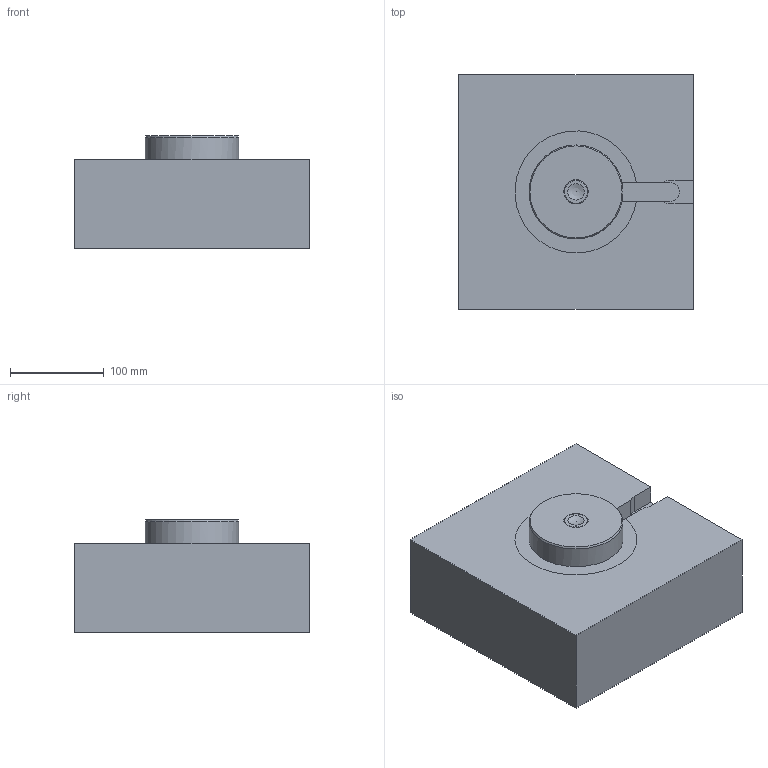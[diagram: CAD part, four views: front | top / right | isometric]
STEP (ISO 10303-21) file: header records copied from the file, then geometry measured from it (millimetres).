
FILE_DESCRIPTION( ( 'STEP AP214' ), '1' );
FILE_NAME( 'D:/PROIECTE_YUDO_2009/PROIECTE YUDO 3D/BLS/YUEU09-BLS18TOE050_2/YUEU09-BLS18TOE050.step', '2009-04-16T05:41:26', ( ' ' ), ( ' ' ), 'XStep 1.0', ' ', ' ' );
FILE_SCHEMA( ( 'automotive_design' ) );
Length unit declared in the file: millimetre
Products named in the file (5): 1; 2; 3; 4; 5
Bounding box: 250 x 250 x 120 mm (x, y, z)
Volume: 6028710.9 mm3; surface area: 300818.2 mm2
Topology: 5 solids, 5 shells, 135 faces, 278 edges, 165 vertices
Faces by surface type: cylinder 49, plane 41, cone 38, torus 5, bspline 1, sphere 1
Full cylindrical faces by diameter (mm): 1.5 x1, 6 x1, 8 x4, 10.4 x1, 12 x1, 12.4 x8, 13 x1, 14 x8, 18.08 x1, 21.134 x1, 22.9 x1, 25 x3, 27.2 x1, 32 x1, 33 x1, 37 x1, 40 x1, 53 x1, 54 x2, 100 x1
Entity records: 4293 total; most frequent: DIRECTION 586, CARTESIAN_POINT 558, ORIENTED_EDGE 382, AXIS2_PLACEMENT_3D 264, EDGE_LOOP 237, EDGE_CURVE 191, FACE_OUTER_BOUND 181, VERTEX_POINT 160
